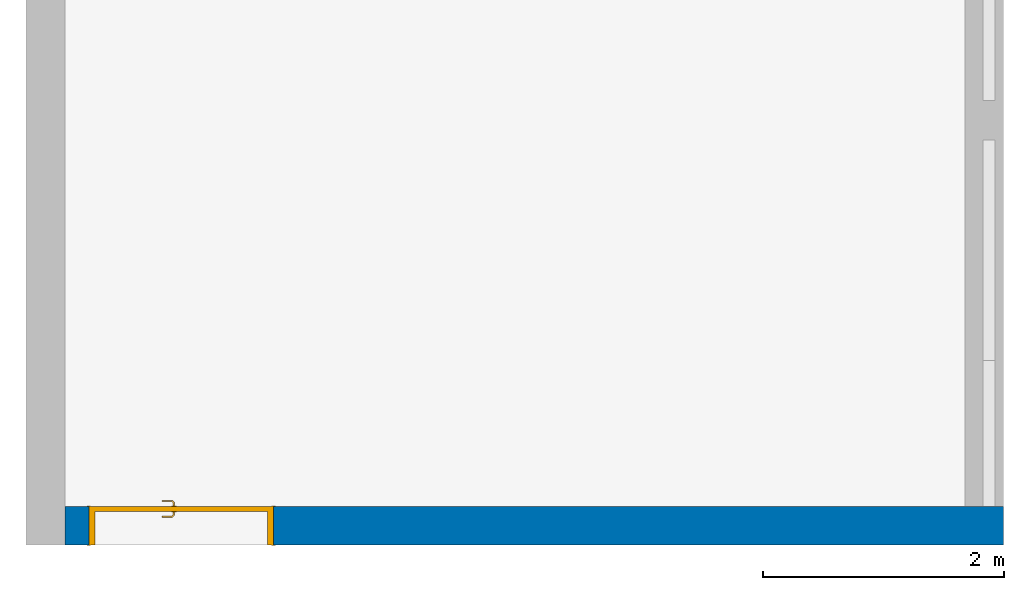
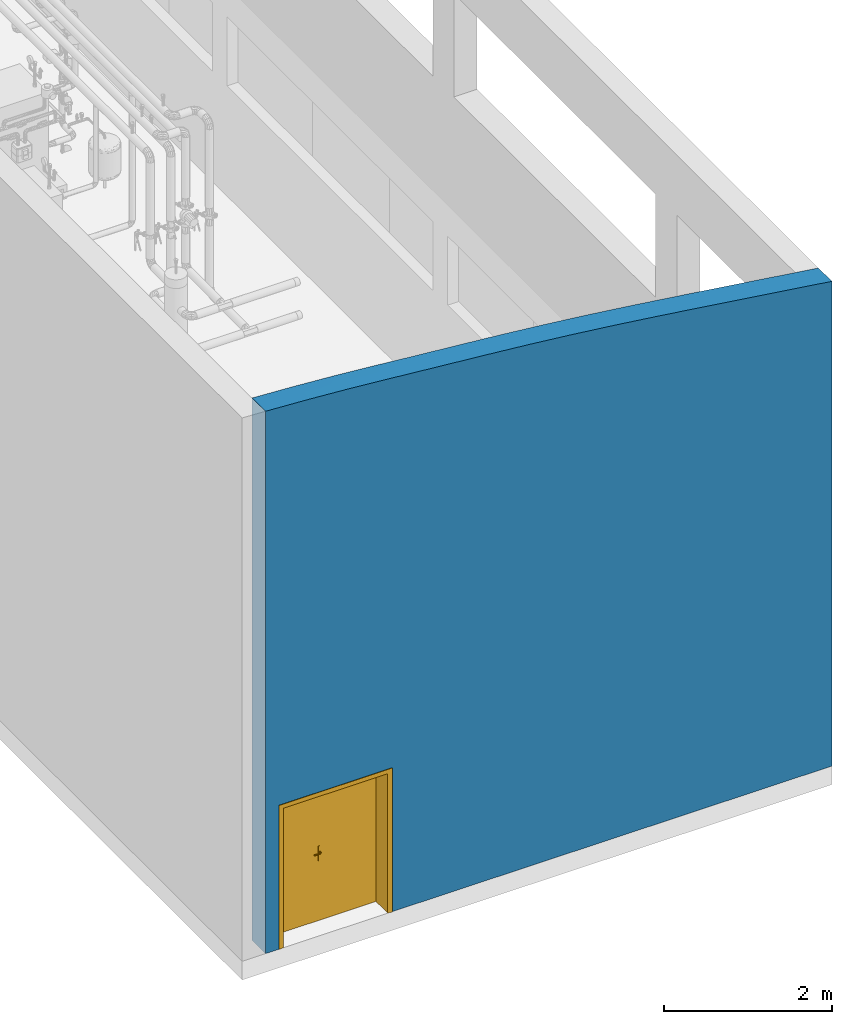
# One storey, part 3 of 43: 1 door, 1 wall, 1 opening.
"""IFC2X3 building model written with IfcOpenShell, lengths in millimetres."""

from ifc_helpers import new_model, entity, si_unit, converted_unit, derived_unit, direction, frame, frame_2d, origin, place, context, subcontext, project, spatial, rectangle, extrude, faceted_brep, source, transform, mapped, material, material_list, layer, layer_set, type_object, type_shapes, element, fill, save


model = new_model("IFC2X3")

# Units and contexts
model_context = context("Model", 3, precision=0.01, world=origin(), true_north=direction((6.123031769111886e-17, 1.0)))
body_context = subcontext(model_context, "Body", "Model", "MODEL_VIEW")
ifc_project = project(units=[si_unit("LENGTHUNIT", "METRE", prefix="MILLI"), si_unit("AREAUNIT", "SQUARE_METRE"), si_unit("VOLUMEUNIT", "CUBIC_METRE"), converted_unit("PLANEANGLEUNIT", "DEGREE", entity("IfcRatioMeasure", 0.017453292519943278), si_unit("PLANEANGLEUNIT", "RADIAN"), dimensions=[0, 0, 0, 0, 0, 0, 0]), si_unit("MASSUNIT", "GRAM", prefix="KILO"), derived_unit("MASSDENSITYUNIT", [(si_unit("MASSUNIT", "GRAM", prefix="KILO"), 1), (si_unit("LENGTHUNIT", "METRE"), -3)]), derived_unit("MOMENTOFINERTIAUNIT", [(si_unit("LENGTHUNIT", "METRE"), 4)]), si_unit("TIMEUNIT", "SECOND"), si_unit("FREQUENCYUNIT", "HERTZ"), si_unit("THERMODYNAMICTEMPERATUREUNIT", "DEGREE_CELSIUS"), derived_unit("THERMALTRANSMITTANCEUNIT", [(si_unit("MASSUNIT", "GRAM", prefix="KILO"), 1), (si_unit("THERMODYNAMICTEMPERATUREUNIT", "KELVIN"), -1), (si_unit("TIMEUNIT", "SECOND"), -3)]), derived_unit("VOLUMETRICFLOWRATEUNIT", [(si_unit("LENGTHUNIT", "METRE"), 3), (si_unit("TIMEUNIT", "SECOND"), -1)]), derived_unit("MASSFLOWRATEUNIT", [(si_unit("MASSUNIT", "GRAM", prefix="KILO"), 1), (si_unit("TIMEUNIT", "SECOND"), -1)]), derived_unit("ROTATIONALFREQUENCYUNIT", [(si_unit("TIMEUNIT", "SECOND"), -1)]), si_unit("ELECTRICCURRENTUNIT", "AMPERE"), si_unit("ELECTRICVOLTAGEUNIT", "VOLT"), si_unit("POWERUNIT", "WATT"), si_unit("FORCEUNIT", "NEWTON", prefix="KILO"), si_unit("ILLUMINANCEUNIT", "LUX"), si_unit("LUMINOUSFLUXUNIT", "LUMEN"), si_unit("LUMINOUSINTENSITYUNIT", "CANDELA"), derived_unit("USERDEFINED", [(si_unit("MASSUNIT", "GRAM", prefix="KILO"), -1), (si_unit("LENGTHUNIT", "METRE"), -2), (si_unit("TIMEUNIT", "SECOND"), 3), (si_unit("LUMINOUSFLUXUNIT", "LUMEN"), 1)]), derived_unit("SOUNDPOWERUNIT", [(si_unit("MASSUNIT", "GRAM", prefix="KILO"), 1), (si_unit("LENGTHUNIT", "METRE"), 2), (si_unit("TIMEUNIT", "SECOND"), -3)]), derived_unit("SOUNDPRESSUREUNIT", [(si_unit("MASSUNIT", "GRAM", prefix="KILO"), 1), (si_unit("LENGTHUNIT", "METRE"), -1), (si_unit("TIMEUNIT", "SECOND"), -2)]), derived_unit("LINEARVELOCITYUNIT", [(si_unit("LENGTHUNIT", "METRE"), 1), (si_unit("TIMEUNIT", "SECOND"), -1)]), si_unit("PRESSUREUNIT", "PASCAL"), derived_unit("USERDEFINED", [(si_unit("LENGTHUNIT", "METRE"), -2), (si_unit("MASSUNIT", "GRAM", prefix="KILO"), 1), (si_unit("TIMEUNIT", "SECOND"), -2)]), derived_unit("LINEARFORCEUNIT", [(si_unit("MASSUNIT", "GRAM", prefix="KILO"), 1), (si_unit("LENGTHUNIT", "METRE"), 1), (si_unit("TIMEUNIT", "SECOND"), -2), (si_unit("LENGTHUNIT", "METRE"), -1)]), derived_unit("PLANARFORCEUNIT", [(si_unit("MASSUNIT", "GRAM", prefix="KILO"), 1), (si_unit("LENGTHUNIT", "METRE"), 1), (si_unit("TIMEUNIT", "SECOND"), -2), (si_unit("LENGTHUNIT", "METRE"), -2)])], contexts=[model_context])

# Site, building, storey
site_placement = place(None, origin())
site = spatial("IfcSite", under=ifc_project, at=site_placement, Name="Default", CompositionType="ELEMENT")
building_placement = place(site_placement, origin())
building = spatial("IfcBuilding", under=site, at=building_placement, CompositionType="ELEMENT")
storey_placement = place(building_placement, frame((0.0, 0.0, 270.0)))
storey = spatial("IfcBuildingStorey", under=building, at=storey_placement, Name="Niveau 0", CompositionType="ELEMENT", Elevation=270.0)

# Wall, opening, door
ifc_material_1 = material(Name="Plaque de mur de gypse")
ifc_layer = layer(ifc_material_1, 320.0)
ifc_layer_set = layer_set([ifc_layer], Name="Mur de base:Générique - 320 mm")
wall_type = type_object("IfcWallType", Name="Mur de base:Générique - 320 mm", PredefinedType="STANDARD", material=ifc_layer_set)
wall_placement = place(storey_placement, frame((-7780.0, -24550.0, 0.0)))
wall = element("IfcWall", 1, at=wall_placement, inside=storey, type_object=wall_type, Name="Mur de base:Générique - 320 mm", ObjectType="Mur de base:Générique - 320 mm", context=body_context, shape_type="Brep", body=[
    faceted_brep([(7780.0, -160.0, 0.0), (1730.0, -160.0, 0.0), (1730.0, 160.0, 0.0), (7460.0, 160.0, 0.0), (7780.0, 160.0, 0.0), (200.0, -160.0, 0.0), (0.0, -160.0, 0.0), (0.0, 160.0, 0.0), (200.0, 160.0, 0.0), (200.0, -160.0, 2075.0), (1730.0, -160.0, 2075.0), (7780.0, -160.0, 7038.839652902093), (7481.818584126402, -160.0, 7080.665403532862), (7183.637168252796, -160.0, 7122.491154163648), (6885.476452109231, -160.0, 7164.093486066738), (6587.315735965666, -160.0, 7205.695817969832), (6289.105679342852, -160.0, 7246.912446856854), (5990.89562272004, -160.0, 7288.129075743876), (5692.497083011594, -160.0, 7328.57049891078), (5394.098543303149, -160.0, 7369.011922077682), (5244.797520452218, -160.0, 7388.2939644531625), (5095.496497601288, -160.0, 7407.576006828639), (4946.195474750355, -160.0, 7426.858049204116), (4796.894451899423, -160.0, 7446.140091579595), (4647.435252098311, -160.0, 7463.696925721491), (4497.9760522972, -160.0, 7481.253759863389), (4348.516852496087, -160.0, 7498.810594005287), (4199.057652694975, -160.0, 7516.367428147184), (4049.3683024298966, -160.0, 7532.2142499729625), (3899.678952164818, -160.0, 7548.061071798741), (3749.989601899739, -160.0, 7563.9078936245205), (3600.3002516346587, -160.0, 7579.754715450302), (3525.375010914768, -160.0, 7586.847274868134), (3450.449770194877, -160.0, 7593.93983428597), (3375.5245294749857, -160.0, 7601.032393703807), (3300.599288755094, -160.0, 7608.124953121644), (3225.6740480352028, -160.0, 7615.217512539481), (3150.748807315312, -160.0, 7622.310071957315), (3075.8235665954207, -160.0, 7629.402631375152), (3000.8983258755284, -160.0, 7636.495190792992), (2850.9631837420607, -160.0, 7649.805064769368), (2701.028041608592, -160.0, 7663.114938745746), (2626.0604705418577, -160.0, 7669.769875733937), (2551.0928994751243, -160.0, 7676.424812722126), (2401.157757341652, -160.0, 7689.734686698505), (2251.246671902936, -160.0, 7703.375277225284), (2101.335586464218, -160.0, 7717.01586775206), (1951.424501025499, -160.0, 7730.656458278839), (1801.5134155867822, -160.0, 7744.297048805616), (1651.5629940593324, -160.0, 7757.489798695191), (1501.6125725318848, -160.0, 7770.682548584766), (1351.6621510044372, -160.0, 7783.8752984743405), (1201.7117294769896, -160.0, 7797.068048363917), (1051.5690407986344, -160.0, 7807.925157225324), (901.4263521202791, -160.0, 7818.782266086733), (751.283663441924, -160.0, 7829.639374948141), (601.1409747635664, -160.0, 7840.496483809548), (300.57048738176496, -160.0, 7857.8500842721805), (0.0, -160.0, 7875.20368473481), (7780.0, 160.0, 7038.839652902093), (1730.0, 160.0, 2075.0), (200.0, 160.0, 2075.0), (0.0, 160.0, 3350.0), (0.0, 160.0, 3610.0), (0.0, 160.0, 7875.20368473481), (288.01073021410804, 160.0, 7858.655207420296), (576.0214604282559, 160.0, 7842.106730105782), (719.9679397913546, 160.0, 7831.844431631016), (863.9144191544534, 160.0, 7821.58213315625), (1007.8608985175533, 160.0, 7811.319834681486), (1151.8073778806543, 160.0, 7801.05753620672), (1295.7246263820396, 160.0, 7788.583265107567), (1439.641874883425, 160.0, 7776.108994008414), (1583.5591233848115, 160.0, 7763.634722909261), (1727.4763718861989, 160.0, 7751.1604518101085), (1871.09105300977, 160.0, 7738.015190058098), (2014.7057341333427, 160.0, 7724.869928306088), (2158.3204152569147, 160.0, 7711.724666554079), (2301.935096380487, 160.0, 7698.579404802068), (2445.7815500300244, 160.0, 7685.826239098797), (2589.6280036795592, 160.0, 7673.073073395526), (2733.474457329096, 160.0, 7660.319907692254), (2877.320910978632, 160.0, 7647.566741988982), (3020.8097352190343, 160.0, 7634.289193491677), (3092.554147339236, 160.0, 7627.650419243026), (3164.298559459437, 160.0, 7621.011644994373), (3307.787383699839, 160.0, 7607.734096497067), (3451.2762079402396, 160.0, 7594.456547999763), (3594.892958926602, 160.0, 7579.700099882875), (3738.509709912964, 160.0, 7564.943651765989), (3882.126460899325, 160.0, 7550.187203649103), (4025.7432118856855, 160.0, 7535.430755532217), (4169.53859510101, 160.0, 7519.062097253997), (4313.333978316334, 160.0, 7502.693438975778), (4385.2316699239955, 160.0, 7494.509109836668), (4457.129361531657, 160.0, 7486.32478069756), (4600.924744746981, 160.0, 7469.956122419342), (4742.841388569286, 160.0, 7452.162461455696), (4884.75803239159, 160.0, 7434.368800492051), (5026.674676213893, 160.0, 7416.57513952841), (5168.591320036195, 160.0, 7398.781478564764), (5312.462606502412, 160.0, 7379.549242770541), (5456.333892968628, 160.0, 7360.317006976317), (5600.205179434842, 160.0, 7341.084771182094), (5744.076465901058, 160.0, 7321.852535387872), (6030.056453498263, 160.0, 7282.586164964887), (6316.036441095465, 160.0, 7243.319794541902), (6601.79955235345, 160.0, 7203.596380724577), (6887.562663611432, 160.0, 7163.87296690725), (7173.781331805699, 160.0, 7123.820469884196), (7460.0, 160.0, 7083.767972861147), (7620.511852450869, 160.0, 7061.242767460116), (0.0, -17.21618565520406, 7875.20368473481), (7780.0, -17.21618492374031, 7038.8396529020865), (3522.3520223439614, -0.9134499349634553, 7587.497055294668), (3379.826227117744, 0.9061114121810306, 7601.356946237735), (2848.8554109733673, 14.522085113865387, 7650.100976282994), (2767.9819622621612, -14.580395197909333, 7657.277919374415), (1232.147462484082, 11.751688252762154, 7794.600281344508), (236.84743439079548, -2.0887555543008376, 7862.4314398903), (2234.5605982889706, 17.55021604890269, 7704.618824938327), (2134.7706896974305, 2.094686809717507, 7713.624048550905), (3130.0946967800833, 4.921624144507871, 7624.754840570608), (3236.421763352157, 5.028605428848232, 7614.920652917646), (1779.445100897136, 7.4957601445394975, 7746.346422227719), (1662.5555882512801, 13.759745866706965, 7757.13609224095), (4860.013293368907, -16.485118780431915, 7438.286973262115), (5020.848118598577, -5.777304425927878, 7417.906922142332), (2671.164504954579, 17.263198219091, 7665.8408380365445), (819.8946778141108, -10.339628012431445, 7825.805294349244), (994.0507894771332, 12.333207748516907, 7813.203719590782), (1497.0829248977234, 2.8465900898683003, 7772.054633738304), (1369.699114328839, 8.733250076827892, 7783.125776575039), (442.63564656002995, 3.979442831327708, 7850.406765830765), (7324.4732469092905, -1.175338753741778, 7102.767829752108), (2436.8986079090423, -4.996996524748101, 7686.560674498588), (2340.8554648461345, -10.114447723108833, 7695.103627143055), (6726.196839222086, -0.050637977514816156, 7186.370872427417), (7012.14196566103, -12.850329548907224, 7146.475523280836), (2928.8273590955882, -14.87479309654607, 7642.967366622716), (3012.3835226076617, -0.17737643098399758, 7635.45923423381), (1895.1283215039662, -15.030099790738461, 7735.598621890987), (3674.1330655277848, -9.186903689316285, 7572.313822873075), (3972.049791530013, -15.64828436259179, 7541.218484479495), (3808.467707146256, 8.862928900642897, 7558.50577929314), (5361.265964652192, 7.450919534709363, 7373.382422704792), (4658.0852388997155, 21.049959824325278, 7463.098196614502), (6439.2045241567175, -3.4905219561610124, 7226.2599242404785), (4564.9580441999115, -21.890081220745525, 7474.23552694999), (4476.111385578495, 1.3449244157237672, 7484.6977588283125), (4345.834510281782, 6.927402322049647, 7499.771048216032), (5546.539134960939, 0.6308718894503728, 7348.587309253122), (6188.316872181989, 7.6768841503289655, 7260.964401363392), (4756.6101544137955, -3.1656146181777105, 7451.106280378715), (627.382224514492, 2.523887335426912, 7838.797909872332), (4242.479929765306, 14.29862202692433, 7511.500505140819), (4150.471440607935, -11.468963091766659, 7521.770142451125), (5873.4020771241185, 5.553202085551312, 7304.220204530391), (2003.213937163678, -5.216456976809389, 7725.621471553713), (5141.548438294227, -14.518529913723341, 7402.307538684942), (5702.689040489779, 11.387602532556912, 7327.47532315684), (2581.9018470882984, -1.8367369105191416, 7673.726458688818), (3890.054964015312, -3.73663232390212, 7549.948712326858), (3598.026368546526, -12.731544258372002, 7579.982216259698), (4059.4157597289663, 5.5375790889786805, 7531.772547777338)], [[[0, 1, 2, 3, 4]], [[5, 6, 7, 8]], [[6, 5, 9, 10, 1, 0, 11, 12, 13, 14, 15, 16, 17, 18, 19, 20, 21, 22, 23, 24, 25, 26, 27, 28, 29, 30, 31, 32, 33, 34, 35, 36, 37, 38, 39, 40, 41, 42, 43, 44, 45, 46, 47, 48, 49, 50, 51, 52, 53, 54, 55, 56, 57, 58]], [[59, 4, 3, 2, 60, 61, 8, 7, 62, 63, 64, 65, 66, 67, 68, 69, 70, 71, 72, 73, 74, 75, 76, 77, 78, 79, 80, 81, 82, 83, 84, 85, 86, 87, 88, 89, 90, 91, 92, 93, 94, 95, 96, 97, 98, 99, 100, 101, 102, 103, 104, 105, 106, 107, 108, 109, 110, 111]], [[63, 62, 7, 6, 58, 112, 64]], [[11, 0, 4, 59, 113]], [[5, 8, 61, 9]], [[9, 61, 60, 10]], [[1, 10, 60, 2]], [[114, 87, 115]], [[116, 81, 117]], [[52, 118, 53]], [[64, 112, 58, 119]], [[45, 120, 121]], [[122, 123, 85]], [[86, 115, 87]], [[49, 124, 125]], [[99, 126, 127]], [[128, 117, 81]], [[45, 121, 46]], [[118, 71, 70]], [[113, 12, 11]], [[129, 54, 130]], [[50, 49, 125]], [[131, 72, 132]], [[133, 66, 65]], [[51, 132, 118]], [[113, 134, 12]], [[135, 79, 136]], [[137, 14, 138]], [[139, 140, 83]], [[141, 75, 124]], [[109, 108, 138]], [[30, 142, 31]], [[132, 71, 118]], [[143, 29, 28]], [[111, 110, 134]], [[78, 136, 79]], [[90, 89, 144]], [[145, 20, 19]], [[146, 97, 96]], [[111, 113, 59]], [[126, 99, 98]], [[147, 137, 107]], [[148, 149, 25]], [[14, 137, 15]], [[150, 94, 93]], [[115, 35, 34, 33]], [[19, 151, 145]], [[147, 106, 152]], [[102, 145, 151]], [[134, 138, 13]], [[126, 98, 153]], [[147, 107, 106]], [[106, 105, 152]], [[133, 154, 66]], [[137, 138, 108]], [[15, 137, 147]], [[137, 108, 107]], [[16, 15, 147]], [[134, 13, 12]], [[134, 113, 111]], [[152, 17, 16]], [[130, 118, 70]], [[27, 155, 156]], [[105, 104, 157]], [[51, 131, 132]], [[147, 152, 16]], [[105, 157, 152]], [[130, 68, 129]], [[51, 118, 52]], [[130, 54, 53]], [[118, 130, 53]], [[130, 70, 69, 68]], [[131, 51, 50]], [[72, 71, 132]], [[67, 66, 154]], [[154, 55, 129]], [[13, 138, 14]], [[134, 109, 138]], [[119, 58, 57]], [[154, 133, 56]], [[134, 110, 109]], [[131, 125, 73]], [[131, 50, 125]], [[73, 125, 74]], [[124, 49, 48]], [[73, 72, 131]], [[158, 75, 141]], [[141, 48, 47]], [[74, 125, 124]], [[75, 158, 76]], [[75, 74, 124]], [[129, 68, 67]], [[55, 54, 129]], [[157, 18, 17]], [[119, 57, 133]], [[101, 145, 102]], [[159, 21, 20]], [[145, 101, 159]], [[101, 100, 159]], [[151, 19, 18]], [[160, 18, 157]], [[160, 103, 151]], [[145, 159, 20]], [[126, 23, 22]], [[159, 100, 99]], [[99, 127, 159]], [[159, 127, 21]], [[22, 21, 127]], [[127, 126, 22]], [[148, 25, 24]], [[98, 97, 153]], [[148, 146, 96]], [[126, 153, 23]], [[24, 23, 153]], [[119, 133, 65]], [[56, 133, 57]], [[64, 119, 65]], [[55, 154, 56]], [[67, 154, 129]], [[157, 104, 160]], [[152, 157, 17]], [[48, 141, 124]], [[141, 47, 158]], [[47, 46, 158]], [[77, 120, 78]], [[146, 24, 153]], [[158, 121, 76]], [[120, 136, 78]], [[18, 160, 151]], [[120, 77, 121]], [[44, 135, 136]], [[136, 45, 44]], [[45, 136, 120]], [[161, 79, 135]], [[44, 43, 135]], [[117, 128, 41]], [[43, 161, 135]], [[76, 121, 77]], [[158, 46, 121]], [[139, 83, 82]], [[143, 162, 29]], [[42, 128, 161]], [[115, 86, 123]], [[139, 40, 39]], [[114, 163, 88]], [[88, 163, 142]], [[87, 114, 88]], [[144, 162, 90]], [[155, 27, 26]], [[164, 91, 143]], [[103, 160, 104]], [[26, 150, 155]], [[149, 26, 25]], [[103, 102, 151]], [[149, 96, 95, 94]], [[24, 146, 148]], [[97, 146, 153]], [[96, 149, 148]], [[150, 93, 155]], [[94, 150, 149]], [[149, 150, 26]], [[93, 92, 155]], [[156, 155, 92]], [[164, 92, 91]], [[28, 27, 156]], [[41, 128, 42]], [[81, 80, 128]], [[161, 128, 80]], [[41, 40, 117]], [[40, 139, 116]], [[161, 80, 79]], [[42, 161, 43]], [[139, 39, 140]], [[116, 139, 82]], [[140, 38, 122]], [[140, 84, 83]], [[140, 122, 84]], [[85, 84, 122]], [[123, 37, 36, 35]], [[115, 123, 35]], [[86, 85, 123]], [[38, 140, 39]], [[38, 37, 122]], [[114, 115, 33]], [[144, 142, 30]], [[88, 142, 89]], [[114, 33, 32]], [[142, 163, 31]], [[164, 143, 28]], [[90, 143, 91]], [[28, 156, 164]], [[92, 164, 156]], [[142, 144, 89]], [[29, 144, 30]], [[81, 116, 82]], [[40, 116, 117]], [[37, 123, 122]], [[163, 32, 31]], [[32, 163, 114]], [[90, 162, 143]], [[144, 29, 162]]]),
])
opening_placement = place(wall_placement, frame((200.0, -160.0, 0.0)))
opening = element("IfcOpeningElement", 2, at=opening_placement, cuts=wall, Name="Int. Double:PP (1.46m x 2.04m):1", ObjectType="Opening", context=body_context, shape_type="SweptSolid", body=[
    extrude(rectangle(XDim=2075.00000000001, YDim=1529.9999999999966, at=frame_2d((1037.500000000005, 764.9999999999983), x_axis=(1.0, 0.0))), frame((0.0, 0.0, 0.0), z_axis=(0.0, 1.0, 0.0), x_axis=(0.0, 0.0, 1.0)), (0.0, 0.0, 1.0), 320.0),
])
ifc_material_2 = material(Name="Bois - Panneau de porte")
ifc_material_3 = material(Name="Finition Peinture - Blanc satiné")
ifc_material_4 = material(Name="Bois - Cadre de porte")
ifc_material_list_1 = material_list([ifc_material_2, ifc_material_3, ifc_material_4])
ifc_material_list_2 = material_list([ifc_material_2, ifc_material_3, ifc_material_3, ifc_material_3, ifc_material_3, ifc_material_2, ifc_material_4, ifc_material_4, ifc_material_4])
door_style = type_object("IfcDoorStyle", Name="Int. Double:PP (1.46m x 2.04m)", ConstructionType="NOTDEFINED", OperationType="NOTDEFINED", ParameterTakesPrecedence=False, Sizeable=False, material=ifc_material_list_2)
shared_shape = source(origin(), body_context, "Body", "Brep", [
    faceted_brep([(765.0, 40.0, 2040.0), (765.0, 40.0, 0.0), (35.0, 40.0, 0.0), (35.0, 40.0, 2040.0), (765.0, 0.0, 2040.0), (35.0, 0.0, 2040.0), (35.0, 0.0, 0.0), (765.0, 0.0, 0.0)], [[[0, 1, 2, 3]], [[4, 5, 6, 7]], [[3, 5, 4, 0]], [[2, 6, 5, 3]], [[1, 7, 6, 2]], [[0, 4, 7, 1]]]),
    faceted_brep([(835.3527618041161, -5.0, 866.003983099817), (845.0, -5.0, 870.0), (845.0, -5.0, 1080.0), (835.352761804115, -5.0, 1083.9960169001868), (825.0, -5.0, 1085.3589838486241), (814.6472381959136, -5.0, 1083.996016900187), (805.0, -5.0, 1080.0), (805.0, -5.0, 870.0), (814.6472381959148, -5.0, 866.003983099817), (825.0, -5.0, 864.6410161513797), (835.352761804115, 0.0, 1083.9960169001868), (845.0, 0.0, 1080.0), (845.0, 0.0, 870.0), (835.3527618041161, 0.0, 866.003983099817), (825.0, 0.0, 864.6410161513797), (814.6472381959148, 0.0, 866.003983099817), (805.0, 0.0, 870.0), (805.0, 0.0, 1080.0), (814.6472381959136, 0.0, 1083.996016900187), (825.0, 0.0, 1085.3589838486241)], [[[0, 1, 2, 3, 4, 5, 6, 7, 8, 9]], [[10, 11, 12, 13, 14, 15, 16, 17, 18, 19]], [[16, 15, 8, 7]], [[8, 15, 14, 9]], [[14, 13, 0, 9]], [[13, 12, 1, 0]], [[2, 1, 12, 11]], [[11, 10, 3, 2]], [[3, 10, 19, 4]], [[19, 18, 5, 4]], [[18, 17, 6, 5]], [[7, 6, 17, 16]]]),
    faceted_brep([(835.3527618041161, 40.0, 866.003983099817), (845.0, 40.0, 870.0), (845.0, 40.0, 1080.0), (835.3527618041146, 40.0, 1083.996016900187), (825.0, 40.0, 1085.3589838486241), (814.6472381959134, 40.0, 1083.9960169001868), (805.0, 40.0, 1080.0), (805.0, 40.0, 870.0), (814.6472381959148, 40.0, 866.0039830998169), (825.0, 40.0, 864.6410161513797), (835.3527618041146, 45.0, 1083.996016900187), (845.0, 45.0, 1080.0), (845.0, 45.0, 870.0), (835.3527618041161, 45.0, 866.003983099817), (825.0, 45.0, 864.6410161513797), (814.6472381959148, 45.0, 866.0039830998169), (805.0, 45.0, 870.0), (805.0, 45.0, 1080.0), (814.6472381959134, 45.0, 1083.9960169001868), (825.0, 45.0, 1085.3589838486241)], [[[0, 1, 2, 3, 4, 5, 6, 7, 8, 9]], [[10, 11, 12, 13, 14, 15, 16, 17, 18, 19]], [[11, 10, 3, 2]], [[3, 10, 19, 4]], [[19, 18, 5, 4]], [[18, 17, 6, 5]], [[7, 6, 17, 16]], [[16, 15, 8, 7]], [[8, 15, 14, 9]], [[14, 13, 0, 9]], [[13, 12, 1, 0]], [[2, 1, 12, 11]]]),
    faceted_brep([(822.9747013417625, -5.0, 1007.7804408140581), (827.0252986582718, -5.0, 1007.7804408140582), (831.0, -5.0, 1007.0), (831.0, -5.0, 993.0), (827.0252986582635, -5.0, 992.2195591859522), (822.9747013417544, -5.0, 992.21955918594), (819.0, -5.0, 993.0), (819.0, -5.0, 1007.0), (819.0, -32.65095070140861, 1007.0), (822.9747013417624, -31.00457549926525, 1007.7804408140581), (839.0235851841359, -47.053459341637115, 1007.7804408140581), (840.7013975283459, -43.00286202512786, 1007.7804408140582), (827.0252986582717, -29.326763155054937, 1007.7804408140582), (831.0, -27.680387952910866, 1007.0), (831.0, -27.68038795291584, 993.0), (827.0252986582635, -29.32676315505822, 992.2195591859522), (840.7013975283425, -43.00286202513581, 992.2195591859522), (839.0235851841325, -47.053459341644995, 992.21955918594), (822.9747013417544, -31.0045754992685, 992.21955918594), (819.0, -32.65095070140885, 993.0), (837.3772099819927, -51.02816068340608, 1007.0), (842.3477727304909, -39.028160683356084, 1007.0), (842.347772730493, -39.02816068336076, 993.0), (837.3772099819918, -51.028160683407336, 993.0), (925.0186406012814, -51.0281606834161, 993.0), (925.0186406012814, -47.05345934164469, 992.2195591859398), (925.0186406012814, -43.002862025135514, 992.219559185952), (925.0186406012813, -39.028160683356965, 993.0), (925.0186406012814, -39.02816068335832, 1007.0), (925.0186406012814, -43.00286202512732, 1007.780440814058), (925.0186406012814, -47.05345934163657, 1007.7804408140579), (925.0186406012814, -51.028160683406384, 1007.0), (877.307697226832, -51.0281606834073, 1007.0), (882.8600190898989, -45.028160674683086, 1007.878686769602), (883.6832066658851, -39.02816068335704, 1007.0), (883.683206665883, -39.028160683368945, 993.0), (882.8600188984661, -45.02816075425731, 992.1213132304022), (877.3077002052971, -51.02816068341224, 993.0)], [[[0, 1, 2, 3, 4, 5, 6, 7]], [[8, 9, 0, 7]], [[9, 10, 11, 12, 1, 0]], [[12, 13, 2, 1]], [[3, 2, 13, 14]], [[14, 15, 4, 3]], [[15, 16, 17, 18, 5, 4]], [[18, 19, 6, 5]], [[7, 6, 19, 8]], [[20, 10, 9, 8]], [[11, 21, 13, 12]], [[14, 13, 21, 22]], [[22, 16, 15, 14]], [[17, 23, 19, 18]], [[8, 19, 23, 20]], [[24, 25, 26, 27, 28, 29, 30, 31]], [[32, 30, 33]], [[31, 30, 32]], [[10, 20, 32]], [[33, 34, 11]], [[21, 11, 34]], [[34, 29, 28]], [[30, 29, 33]], [[29, 34, 33]], [[10, 32, 33]], [[10, 33, 11]], [[22, 21, 34, 28, 27, 35]], [[35, 26, 36]], [[37, 36, 25]], [[22, 35, 16]], [[35, 27, 26]], [[24, 37, 25]], [[23, 17, 37]], [[37, 17, 36]], [[17, 16, 36]], [[16, 35, 36]], [[25, 36, 26]], [[20, 23, 37, 24, 31, 32]]]),
    faceted_brep([(822.9747013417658, 45.0, 1007.7804408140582), (819.0, 45.0, 1007.0), (819.0, 45.0, 993.0), (822.9747013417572, 45.0, 992.2195591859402), (827.0252986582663, 45.0, 992.2195591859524), (831.0, 45.0, 993.0), (831.0, 45.0, 1007.0), (827.0252986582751, 45.0, 1007.7804408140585), (831.0, 67.48520450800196, 993.0), (831.0, 67.48520450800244, 1007.0), (827.0252986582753, 69.13157971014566, 1007.7804408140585), (840.8389061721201, 82.9451872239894, 1007.7804408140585), (839.16109382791, 86.99578454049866, 1007.7804408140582), (822.974701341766, 70.80939205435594, 1007.7804408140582), (819.0, 72.45576725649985, 1007.0), (819.0, 72.455767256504, 993.0), (822.9747013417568, 70.80939205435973, 992.2195591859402), (839.1610938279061, 86.99578454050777, 992.2195591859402), (840.8389061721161, 82.94518722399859, 992.2195591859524), (827.025298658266, 69.13157971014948, 992.2195591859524), (842.4852813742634, 78.97048588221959, 993.0), (842.4852813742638, 78.97048588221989, 1007.0), (837.5147186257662, 90.9704858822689, 1007.0), (837.514718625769, 90.97048588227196, 993.0), (925.0457836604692, 78.97048588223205, 993.0), (925.0457836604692, 82.94518722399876, 992.2195591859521), (925.045783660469, 86.99578454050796, 992.2195591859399), (925.045783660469, 90.97048588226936, 993.0), (925.0457836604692, 90.97048588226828, 1007.0), (925.0457836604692, 86.99578454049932, 1007.780440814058), (925.0457836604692, 82.94518722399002, 1007.7804408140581), (925.0457836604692, 78.97048588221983, 1007.0), (883.7655206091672, 78.97048588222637, 993.0), (883.7655325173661, 78.9704858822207, 1007.0), (882.9423448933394, 84.97048589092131, 1007.8786867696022), (877.4452057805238, 90.9704858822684, 1007.0), (877.4452043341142, 90.9704858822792, 993.0), (882.9423451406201, 84.97048581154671, 992.1213132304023)], [[[0, 1, 2, 3, 4, 5, 6, 7]], [[6, 5, 8, 9]], [[9, 10, 7, 6]], [[10, 11, 12, 13, 0, 7]], [[13, 14, 1, 0]], [[2, 1, 14, 15]], [[15, 16, 3, 2]], [[16, 17, 18, 19, 4, 3]], [[19, 8, 5, 4]], [[9, 8, 20, 21]], [[21, 11, 10, 9]], [[12, 22, 14, 13]], [[15, 14, 22, 23]], [[23, 17, 16, 15]], [[18, 20, 8, 19]], [[24, 25, 26, 27, 28, 29, 30, 31]], [[21, 20, 32, 24, 31, 33]], [[33, 30, 34]], [[35, 34, 29]], [[21, 33, 11]], [[33, 31, 30]], [[28, 35, 29]], [[22, 12, 35]], [[35, 12, 34]], [[12, 11, 34]], [[11, 33, 34]], [[29, 34, 30]], [[22, 35, 28, 27, 36, 23]], [[36, 26, 37]], [[27, 26, 36]], [[17, 23, 36]], [[37, 32, 18]], [[20, 18, 32]], [[32, 25, 24]], [[26, 25, 37]], [[25, 32, 37]], [[17, 36, 37]], [[17, 37, 18]]]),
    faceted_brep([(765.0, 40.0, 2040.0), (1495.0, 40.0, 2040.0), (1495.0, 40.0, 0.0), (765.0, 40.0, 0.0), (765.0, 0.0, 2040.0), (765.0, 0.0, 0.0), (1495.0, 0.0, 0.0), (1495.0, 0.0, 2040.0)], [[[0, 1, 2, 3]], [[4, 5, 6, 7]], [[1, 0, 4, 7]], [[2, 1, 7, 6]], [[3, 2, 6, 5]], [[0, 3, 5, 4]]]),
    faceted_brep([(0.0, 0.0, 0.0), (0.0, 320.0, 0.0), (50.0, 320.0, 0.0), (50.0, 40.0, 0.0), (35.0, 40.0, 0.0), (35.0, 0.0, 0.0), (0.0, 0.0, 2075.0), (0.0, 320.0, 2075.0), (1530.0, 320.0, 2075.0), (1530.0, 320.0, 0.0), (1480.0, 320.0, 0.0), (1480.0, 320.0, 2025.0), (50.0, 320.0, 2025.0), (50.0, 40.0, 2025.0), (1480.0, 40.0, 2025.0), (1480.0, 40.0, 0.0), (1495.0, 40.0, 0.0), (1495.0, 40.0, 2040.0), (35.0, 40.0, 2040.0), (35.0, 0.0, 2040.0), (1495.0, 0.0, 2040.0), (1495.0, 0.0, 0.0), (1530.0, 0.0, 0.0), (1530.0, 0.0, 2075.0)], [[[0, 1, 2, 3, 4, 5]], [[1, 0, 6, 7]], [[2, 1, 7, 8, 9, 10, 11, 12]], [[3, 2, 12, 13]], [[4, 3, 13, 14, 15, 16, 17, 18]], [[5, 4, 18, 19]], [[0, 5, 19, 20, 21, 22, 23, 6]], [[8, 23, 22, 9]], [[22, 21, 16, 15, 10, 9]], [[14, 11, 10, 15]], [[20, 17, 16, 21]], [[7, 6, 23, 8]], [[13, 12, 11, 14]], [[19, 18, 17, 20]]]),
    faceted_brep([(15.0, 320.0, 0.0), (-15.0, 320.0, 0.0), (-15.0, 325.0, 0.0), (15.0, 325.0, 0.0), (15.0, 320.0, 2060.0), (1515.0, 320.0, 2060.0), (1515.0, 320.0, 0.0), (1545.0, 320.0, 0.0), (1545.0, 320.0, 2090.0), (-15.0, 320.0, 2090.0), (-15.0, 325.0, 2090.0), (1545.0, 325.0, 2090.0), (1545.0, 325.0, 0.0), (1515.0, 325.0, 0.0), (1515.0, 325.0, 2060.0), (15.0, 325.0, 2060.0)], [[[0, 1, 2, 3]], [[1, 0, 4, 5, 6, 7, 8, 9]], [[2, 1, 9, 10]], [[3, 2, 10, 11, 12, 13, 14, 15]], [[0, 3, 15, 4]], [[5, 14, 13, 6]], [[6, 13, 12, 7]], [[11, 8, 7, 12]], [[10, 9, 8, 11]], [[4, 15, 14, 5]]]),
    faceted_brep([(-15.0, -5.0, 0.0), (15.0, -5.0, 0.0), (15.0, -5.0, 2060.0), (1515.0, -5.0, 2060.0), (1515.0, -5.0, 0.0), (1545.0, -5.0, 0.0), (1545.0, -5.0, 2090.0), (-15.0, -5.0, 2090.0), (-15.0, 0.0, 0.0), (-15.0, 0.0, 2090.0), (15.0, 0.0, 0.0), (1545.0, 0.0, 2090.0), (1545.0, 0.0, 0.0), (1515.0, 0.0, 0.0), (1515.0, 0.0, 2060.0), (15.0, 0.0, 2060.0)], [[[0, 1, 2, 3, 4, 5, 6, 7]], [[8, 0, 7, 9]], [[10, 8, 9, 11, 12, 13, 14, 15]], [[1, 10, 15, 2]], [[3, 14, 13, 4]], [[11, 6, 5, 12]], [[9, 7, 6, 11]], [[2, 15, 14, 3]], [[4, 13, 12, 5]], [[1, 0, 8, 10]]]),
])
type_shapes(door_style, [shared_shape])
door_placement = place(opening_placement, frame((1530.0, 320.0, 0.0), z_axis=(0.0, 0.0, 1.0), x_axis=(-1.0, 0.0, 0.0)))
door = element("IfcDoor", 3, at=door_placement, inside=storey, type_object=door_style, material=ifc_material_list_1, Name="Int. Double:PP (1.46m x 2.04m)", ObjectType="Int. Double:PP (1.46m x 2.04m)", OverallHeight=2075.00000000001, OverallWidth=1529.9999999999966, context=body_context, shape_type="MappedRepresentation", body=[
    mapped(shared_shape, transform((0.0, 0.0, 0.0), scale=1.0)),
])
fill(opening, door)

save(model, "model.ifc")
